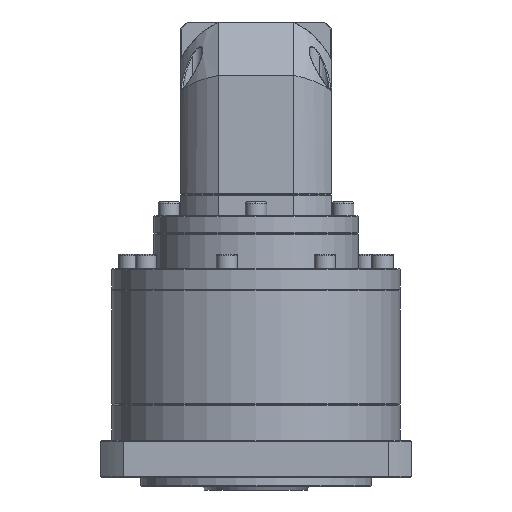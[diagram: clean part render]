
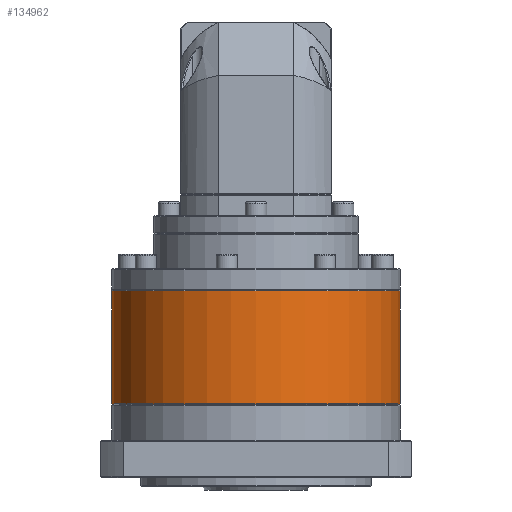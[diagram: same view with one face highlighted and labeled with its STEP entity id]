
A CAD part, front view. The second image highlights one B-rep face of the part: STEP entity #134962.
In plain terms, the highlighted cylindrical face has radius 81 mm (diameter 162 mm), a partial arc.
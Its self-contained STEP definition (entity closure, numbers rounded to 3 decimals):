
#353 = VERTEX_POINT ( 'NONE', #70958 ) ;
#1591 = ORIENTED_EDGE ( 'NONE', *, *, #30318, .T. ) ;
#3578 = CARTESIAN_POINT ( 'NONE',  ( -226.994, 97.065, -195.766 ) ) ;
#4647 = CARTESIAN_POINT ( 'NONE',  ( -226.994, 97.065, -131.766 ) ) ;
#8645 = CIRCLE ( 'NONE', #69467, 81. ) ;
#10204 = VECTOR ( 'NONE', #49177, 1000. ) ;
#20450 = DIRECTION ( 'NONE',  ( -1., 0., 0. ) ) ;
#21770 = AXIS2_PLACEMENT_3D ( 'NONE', #65817, #108783, #97721 ) ;
#24386 = ORIENTED_EDGE ( 'NONE', *, *, #131582, .T. ) ;
#24692 = CARTESIAN_POINT ( 'NONE',  ( -145.994, 97.065, -132.266 ) ) ;
#25931 = AXIS2_PLACEMENT_3D ( 'NONE', #24692, #81230, #136660 ) ;
#27129 = ORIENTED_EDGE ( 'NONE', *, *, #64883, .T. ) ;
#30318 = EDGE_CURVE ( 'NONE', #106078, #90926, #54674, .T. ) ;
#37220 = CARTESIAN_POINT ( 'NONE',  ( -64.994, 97.065, -132.266 ) ) ;
#43136 = LINE ( 'NONE', #4647, #10204 ) ;
#49177 = DIRECTION ( 'NONE',  ( 0., 0., -1. ) ) ;
#54674 = CIRCLE ( 'NONE', #25931, 81. ) ;
#57070 = VERTEX_POINT ( 'NONE', #3578 ) ;
#57632 = CARTESIAN_POINT ( 'NONE',  ( -64.994, 97.065, -195.766 ) ) ;
#57654 = CYLINDRICAL_SURFACE ( 'NONE', #21770, 81. ) ;
#59761 = EDGE_CURVE ( 'NONE', #106078, #88040, #125019, .T. ) ;
#64883 = EDGE_CURVE ( 'NONE', #353, #57070, #43136, .T. ) ;
#65817 = CARTESIAN_POINT ( 'NONE',  ( -145.994, 97.065, -131.766 ) ) ;
#65957 = CARTESIAN_POINT ( 'NONE',  ( -145.994, 97.065, -132.266 ) ) ;
#66448 = DIRECTION ( 'NONE',  ( 0., 0., -1. ) ) ;
#68796 = DIRECTION ( 'NONE',  ( -1., 0., 0. ) ) ;
#69467 = AXIS2_PLACEMENT_3D ( 'NONE', #65957, #66448, #68796 ) ;
#70054 = EDGE_CURVE ( 'NONE', #90926, #353, #8645, .T. ) ;
#70958 = CARTESIAN_POINT ( 'NONE',  ( -226.994, 97.065, -132.266 ) ) ;
#74108 = CARTESIAN_POINT ( 'NONE',  ( -145.994, 16.065, -132.266 ) ) ;
#75050 = CARTESIAN_POINT ( 'NONE',  ( -145.994, 97.065, -195.766 ) ) ;
#80180 = FACE_OUTER_BOUND ( 'NONE', #105211, .T. ) ;
#81230 = DIRECTION ( 'NONE',  ( 0., 0., -1. ) ) ;
#86236 = DIRECTION ( 'NONE',  ( 0., 0., 1. ) ) ;
#88040 = VERTEX_POINT ( 'NONE', #57632 ) ;
#90297 = DIRECTION ( 'NONE',  ( 0., 0., -1. ) ) ;
#90926 = VERTEX_POINT ( 'NONE', #74108 ) ;
#94321 = AXIS2_PLACEMENT_3D ( 'NONE', #75050, #86236, #20450 ) ;
#95719 = VECTOR ( 'NONE', #90297, 1000. ) ;
#97721 = DIRECTION ( 'NONE',  ( -1., 0., 0. ) ) ;
#105211 = EDGE_LOOP ( 'NONE', ( #130696, #1591, #111242, #27129, #24386 ) ) ;
#106078 = VERTEX_POINT ( 'NONE', #37220 ) ;
#108783 = DIRECTION ( 'NONE',  ( 0., 0., -1. ) ) ;
#111242 = ORIENTED_EDGE ( 'NONE', *, *, #70054, .T. ) ;
#125019 = LINE ( 'NONE', #143289, #95719 ) ;
#126944 = CIRCLE ( 'NONE', #94321, 81. ) ;
#130696 = ORIENTED_EDGE ( 'NONE', *, *, #59761, .F. ) ;
#131582 = EDGE_CURVE ( 'NONE', #57070, #88040, #126944, .T. ) ;
#134962 = ADVANCED_FACE ( 'NONE', ( #80180 ), #57654, .T. ) ;
#136660 = DIRECTION ( 'NONE',  ( -1., 0., 0. ) ) ;
#143289 = CARTESIAN_POINT ( 'NONE',  ( -64.994, 97.065, -131.766 ) ) ;
